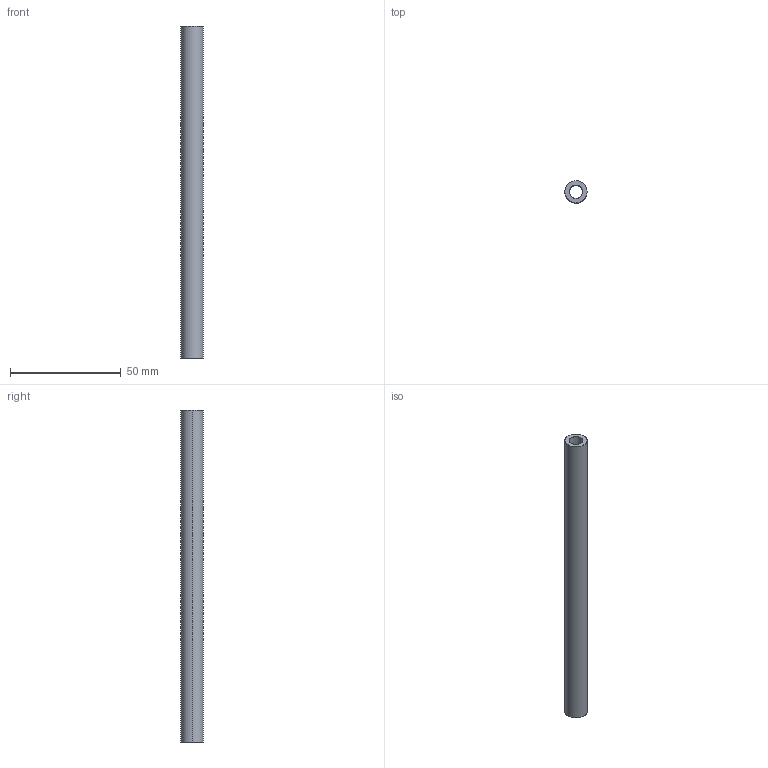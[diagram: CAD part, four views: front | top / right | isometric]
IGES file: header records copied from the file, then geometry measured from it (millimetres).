
Global section: file name: E:\UnigraphicsGraphicData\MISUMI_PRESS-PARTS\IGES\3d_sb10-150_00131_r00.igs; native system: NX V5.0; preprocessor: UGS NX IGES V5.0; author: MISUMI; date: 20110105.162424; units: millimetre
Bounding box: 10 x 10 x 150 mm (x, y, z)
Surface area: 7640.7 mm2 (no closed solid volume)
Topology: 0 solids, 0 shells, 6 faces, 48 edges, 48 vertices
Faces by surface type: bspline 6
